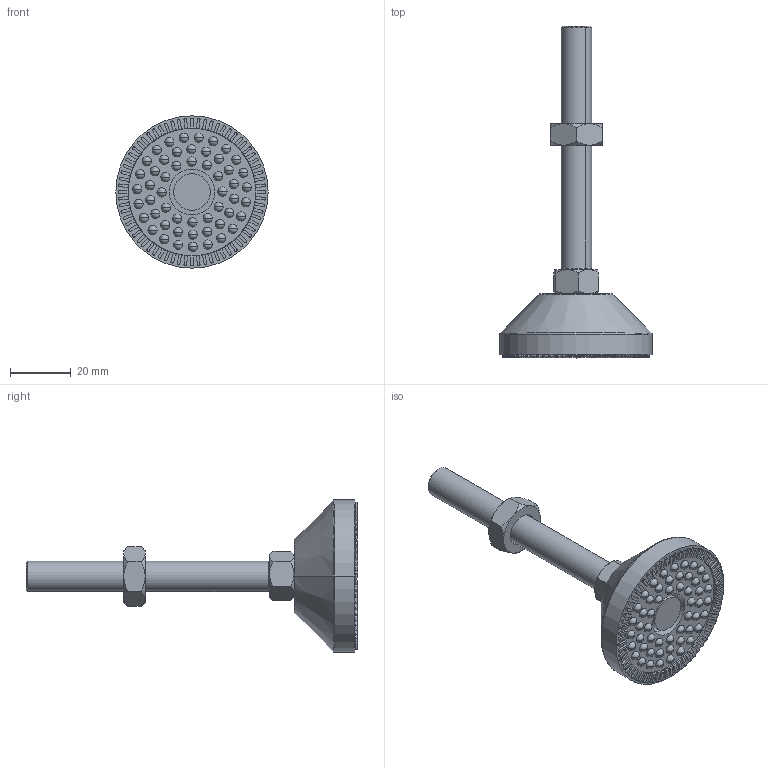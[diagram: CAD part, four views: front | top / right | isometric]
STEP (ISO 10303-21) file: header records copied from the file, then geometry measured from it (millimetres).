
FILE_DESCRIPTION (( 'STEP AP203' ), '1' );
FILE_NAME ('7088.STEP', '2016-07-14T12:15:42', ( 'RosInstal-MKM' ), ( '' ), 'SwSTEP 2.0', 'SolidWorks 2014', '' );
FILE_SCHEMA (( 'CONFIG_CONTROL_DESIGN' ));
Length unit declared in the file: millimetre
Products named in the file (5): Ïîäîøâà ïîâîðîòíàÿ 50ìì; Ïðîêëàäêà îò ñêîëüæåíèÿ ïîä 50ìì; Øïèëüêà Ì10 80ìì; Ãàéêà áåç äûðêè Ì10; 7088
Assembly tree (4 placements, depth 2):
  7088
    Ïîäîøâà ïîâîðîòíàÿ 50ìì
    Ïðîêëàäêà îò ñêîëüæåíèÿ ïîä 50ìì
    Øïèëüêà Ì10 80ìì
    Ãàéêà áåç äûðêè Ì10
Bounding box: 50 x 109 x 50 mm (x, y, z)
Volume: 35752.2 mm3; surface area: 15627.7 mm2
Topology: 4 solids, 4 shells, 697 faces, 2062 edges, 1325 vertices
Faces by surface type: plane 365, cylinder 188, sphere 106, cone 34, torus 4
Entity records: 22547 total; most frequent: CARTESIAN_POINT 4085, DIRECTION 3906, ORIENTED_EDGE 3700, EDGE_CURVE 1850, AXIS2_PLACEMENT_3D 1400, VERTEX_POINT 1219, VECTOR 1106, LINE 1106
